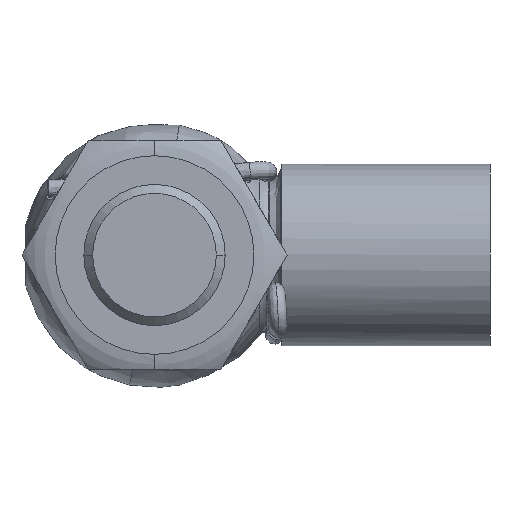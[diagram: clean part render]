
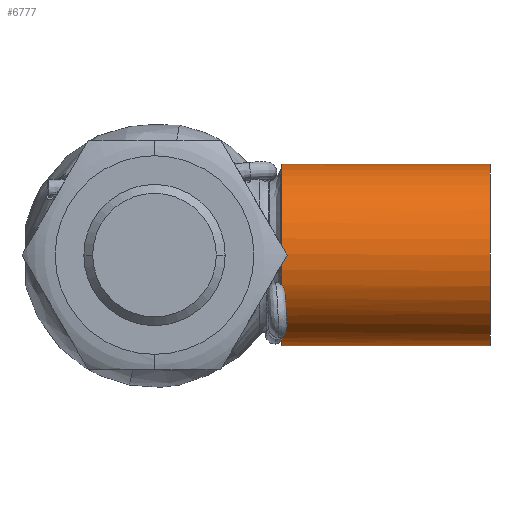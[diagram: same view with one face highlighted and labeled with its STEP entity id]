
A CAD part, front view. The second image highlights one B-rep face of the part: STEP entity #6777.
In plain terms, the highlighted cylindrical face has radius 5.15 mm (diameter 10.3 mm), a partial arc.
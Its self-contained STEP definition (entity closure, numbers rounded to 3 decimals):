
#68 = CARTESIAN_POINT ( 'NONE',  ( 7.265, -3.36, -3.903 ) ) ;
#87 = VERTEX_POINT ( 'NONE', #1845 ) ;
#289 = EDGE_CURVE ( 'NONE', #8706, #8515, #4446, .T. ) ;
#765 = DIRECTION ( 'NONE',  ( 0., 0., -1. ) ) ;
#896 = DIRECTION ( 'NONE',  ( 0., 0., 1. ) ) ;
#916 = CARTESIAN_POINT ( 'NONE',  ( 7.203, 0., 5.15 ) ) ;
#955 = CIRCLE ( 'NONE', #9921, 5.15 ) ;
#970 = DIRECTION ( 'NONE',  ( 0., 0., -1. ) ) ;
#983 = CARTESIAN_POINT ( 'NONE',  ( 7.304, -4.821, -1.814 ) ) ;
#1241 = DIRECTION ( 'NONE',  ( 1., 0., 0. ) ) ;
#1340 = CARTESIAN_POINT ( 'NONE',  ( 7.203, -3.362, -3.901 ) ) ;
#1400 = VERTEX_POINT ( 'NONE', #3953 ) ;
#1560 = ORIENTED_EDGE ( 'NONE', *, *, #3264, .T. ) ;
#1565 = CARTESIAN_POINT ( 'NONE',  ( 7.265, -3.36, -3.903 ) ) ;
#1592 = DIRECTION ( 'NONE',  ( -1., 0., 0. ) ) ;
#1727 = CARTESIAN_POINT ( 'NONE',  ( 7.203, -4.861, -1.7 ) ) ;
#1770 = ORIENTED_EDGE ( 'NONE', *, *, #4210, .T. ) ;
#1793 = CARTESIAN_POINT ( 'NONE',  ( 7.357, -4.768, -1.949 ) ) ;
#1845 = CARTESIAN_POINT ( 'NONE',  ( 19.003, 0., -5.15 ) ) ;
#1856 = CARTESIAN_POINT ( 'NONE',  ( 7.246, -4.547, -2.42 ) ) ;
#1892 = CARTESIAN_POINT ( 'NONE',  ( 7.367, -4.737, -2.022 ) ) ;
#2111 = VERTEX_POINT ( 'NONE', #9805 ) ;
#2188 = AXIS2_PLACEMENT_3D ( 'NONE', #8251, #8179, #765 ) ;
#2205 = CIRCLE ( 'NONE', #2188, 5.15 ) ;
#2522 = ORIENTED_EDGE ( 'NONE', *, *, #6853, .T. ) ;
#2546 = CARTESIAN_POINT ( 'NONE',  ( 19.003, 0., 0. ) ) ;
#2589 = VECTOR ( 'NONE', #6857, 1000. ) ;
#2601 = CARTESIAN_POINT ( 'NONE',  ( 7.203, 0., 0. ) ) ;
#2605 = EDGE_CURVE ( 'NONE', #3661, #9912, #9890, .T. ) ;
#2950 =( BOUNDED_CURVE ( )  B_SPLINE_CURVE ( 3, ( #7716, #9573, #5519, #3884 ),
 .UNSPECIFIED., .F., .F. ) 
 B_SPLINE_CURVE_WITH_KNOTS ( ( 4, 4 ),
 ( 4.071, 4.072 ),
 .UNSPECIFIED. ) 
 CURVE ( )  GEOMETRIC_REPRESENTATION_ITEM ( )  RATIONAL_B_SPLINE_CURVE ( ( 1., 1., 1., 1. ) ) 
 REPRESENTATION_ITEM ( '' )  );
#3264 = EDGE_CURVE ( 'NONE', #87, #1400, #955, .T. ) ;
#3322 = CARTESIAN_POINT ( 'NONE',  ( 7.203, 0., -5.15 ) ) ;
#3361 = CYLINDRICAL_SURFACE ( 'NONE', #9970, 5.15 ) ;
#3456 = CARTESIAN_POINT ( 'NONE',  ( 7.226, -3.404, -3.865 ) ) ;
#3588 = CIRCLE ( 'NONE', #6207, 5.15 ) ;
#3645 = CARTESIAN_POINT ( 'NONE',  ( 16.117, 0., 5.15 ) ) ;
#3661 = VERTEX_POINT ( 'NONE', #1340 ) ;
#3884 = CARTESIAN_POINT ( 'NONE',  ( 7.265, -3.36, -3.903 ) ) ;
#3953 = CARTESIAN_POINT ( 'NONE',  ( 19.003, 0., 5.15 ) ) ;
#4191 = B_SPLINE_CURVE_WITH_KNOTS ( 'NONE', 3,
 ( #5839, #3456, #7464, #68 ),
 .UNSPECIFIED., .F., .F.,
 ( 4, 4 ),
 ( 0., 0. ),
 .UNSPECIFIED. ) ;
#4210 = EDGE_CURVE ( 'NONE', #7527, #8515, #2205, .T. ) ;
#4281 = DIRECTION ( 'NONE',  ( -1., 0., 0. ) ) ;
#4317 = CARTESIAN_POINT ( 'NONE',  ( 7.203, -4.861, -1.7 ) ) ;
#4446 = B_SPLINE_CURVE_WITH_KNOTS ( 'NONE', 3,
 ( #6758, #1856, #7580, #7546, #5858, #1892, #1793, #983, #6685, #4317 ),
 .UNSPECIFIED., .F., .F.,
 ( 4, 2, 2, 2, 4 ),
 ( 0., 0., 0., 0.001, 0.001 ),
 .UNSPECIFIED. ) ;
#4481 = CARTESIAN_POINT ( 'NONE',  ( 7.203, 0., 0. ) ) ;
#5006 = CARTESIAN_POINT ( 'NONE',  ( 16.117, 0., -5.15 ) ) ;
#5051 = DIRECTION ( 'NONE',  ( -1., 0., 0. ) ) ;
#5185 = ORIENTED_EDGE ( 'NONE', *, *, #6102, .T. ) ;
#5262 = FACE_OUTER_BOUND ( 'NONE', #6462, .T. ) ;
#5282 = EDGE_CURVE ( 'NONE', #87, #9912, #8083, .T. ) ;
#5519 = CARTESIAN_POINT ( 'NONE',  ( 7.244, -3.361, -3.902 ) ) ;
#5835 = ORIENTED_EDGE ( 'NONE', *, *, #289, .F. ) ;
#5839 = CARTESIAN_POINT ( 'NONE',  ( 7.203, -3.423, -3.848 ) ) ;
#5846 = DIRECTION ( 'NONE',  ( 1., 0., 0. ) ) ;
#5858 = CARTESIAN_POINT ( 'NONE',  ( 7.359, -4.675, -2.163 ) ) ;
#6102 = EDGE_CURVE ( 'NONE', #1400, #7527, #7710, .T. ) ;
#6207 = AXIS2_PLACEMENT_3D ( 'NONE', #2601, #5846, #970 ) ;
#6394 = EDGE_CURVE ( 'NONE', #3661, #9801, #2950, .T. ) ;
#6462 = EDGE_LOOP ( 'NONE', ( #10437, #1560, #5185, #1770, #5835, #6714, #2522, #7258, #6745 ) ) ;
#6685 = CARTESIAN_POINT ( 'NONE',  ( 7.26, -4.844, -1.751 ) ) ;
#6714 = ORIENTED_EDGE ( 'NONE', *, *, #9180, .T. ) ;
#6745 = ORIENTED_EDGE ( 'NONE', *, *, #2605, .T. ) ;
#6758 = CARTESIAN_POINT ( 'NONE',  ( 7.203, -4.516, -2.476 ) ) ;
#6777 = ADVANCED_FACE ( 'NONE', ( #5262 ), #3361, .T. ) ;
#6853 = EDGE_CURVE ( 'NONE', #2111, #9801, #4191, .T. ) ;
#6857 = DIRECTION ( 'NONE',  ( -1., 0., 0. ) ) ;
#7119 = CARTESIAN_POINT ( 'NONE',  ( 7.203, -4.516, -2.476 ) ) ;
#7258 = ORIENTED_EDGE ( 'NONE', *, *, #6394, .F. ) ;
#7464 = CARTESIAN_POINT ( 'NONE',  ( 7.246, -3.382, -3.884 ) ) ;
#7518 = DIRECTION ( 'NONE',  ( 0., 0., -1. ) ) ;
#7527 = VERTEX_POINT ( 'NONE', #916 ) ;
#7546 = CARTESIAN_POINT ( 'NONE',  ( 7.34, -4.642, -2.232 ) ) ;
#7580 = CARTESIAN_POINT ( 'NONE',  ( 7.284, -4.578, -2.36 ) ) ;
#7710 = LINE ( 'NONE', #3645, #2589 ) ;
#7716 = CARTESIAN_POINT ( 'NONE',  ( 7.203, -3.362, -3.901 ) ) ;
#8083 = LINE ( 'NONE', #5006, #10257 ) ;
#8179 = DIRECTION ( 'NONE',  ( 1., 0., 0. ) ) ;
#8251 = CARTESIAN_POINT ( 'NONE',  ( 7.203, 0., 0. ) ) ;
#8305 = CARTESIAN_POINT ( 'NONE',  ( 16.117, 0., 0. ) ) ;
#8515 = VERTEX_POINT ( 'NONE', #1727 ) ;
#8706 = VERTEX_POINT ( 'NONE', #7119 ) ;
#9180 = EDGE_CURVE ( 'NONE', #8706, #2111, #3588, .T. ) ;
#9489 = DIRECTION ( 'NONE',  ( 0., 0., -1. ) ) ;
#9573 = CARTESIAN_POINT ( 'NONE',  ( 7.223, -3.361, -3.902 ) ) ;
#9722 = AXIS2_PLACEMENT_3D ( 'NONE', #4481, #1241, #9489 ) ;
#9801 = VERTEX_POINT ( 'NONE', #1565 ) ;
#9805 = CARTESIAN_POINT ( 'NONE',  ( 7.203, -3.423, -3.848 ) ) ;
#9890 = CIRCLE ( 'NONE', #9722, 5.15 ) ;
#9912 = VERTEX_POINT ( 'NONE', #3322 ) ;
#9921 = AXIS2_PLACEMENT_3D ( 'NONE', #2546, #4281, #7518 ) ;
#9970 = AXIS2_PLACEMENT_3D ( 'NONE', #8305, #5051, #896 ) ;
#10257 = VECTOR ( 'NONE', #1592, 1000. ) ;
#10437 = ORIENTED_EDGE ( 'NONE', *, *, #5282, .F. ) ;
